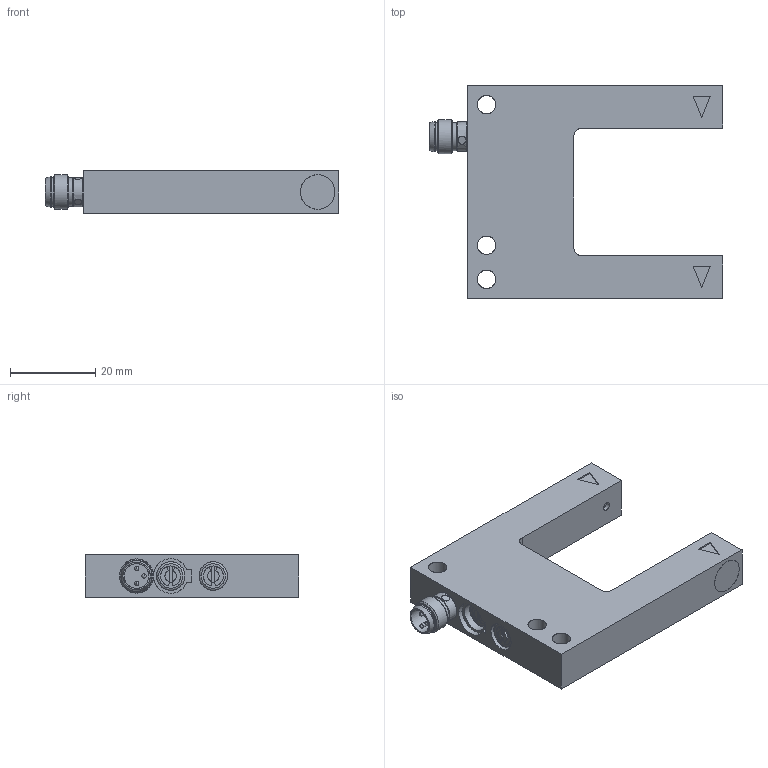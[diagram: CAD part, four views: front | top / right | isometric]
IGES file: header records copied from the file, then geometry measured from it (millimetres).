
Start section: C
Global section: file name: OG030U.x-xxxx.7xL.igs; native system: By Siemens PLM Incorporated; preprocessor: XPlus GENERIC/IGES 19.0.9; author: Author; organization: Title; date: 20200918.085742; units: millimetre
Bounding box: 69 x 50 x 10 mm (x, y, z)
Surface area: 7946.1 mm2 (no closed solid volume)
Topology: 0 solids, 0 shells, 129 faces, 687 edges, 684 vertices
Faces by surface type: bspline 129
